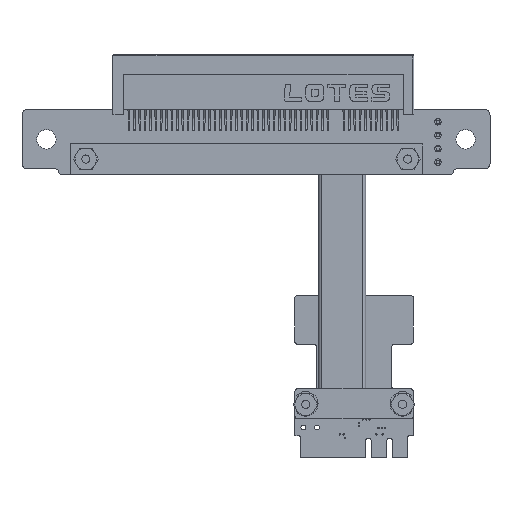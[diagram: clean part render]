
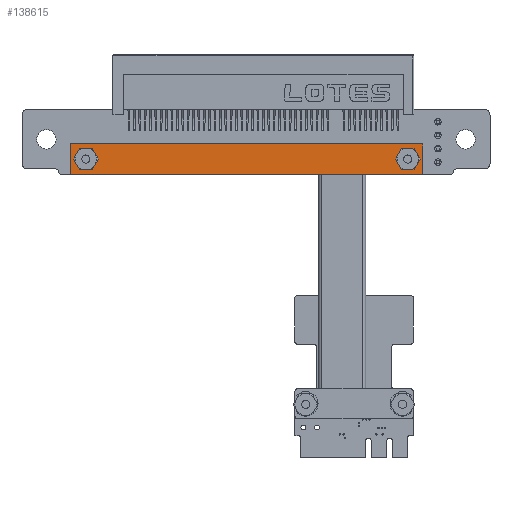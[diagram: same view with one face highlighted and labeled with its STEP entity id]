
A CAD part, top view. The second image highlights one B-rep face of the part: STEP entity #138615.
In plain terms, the highlighted planar face has unit normal (0, 0, 1) as drawn and (0, 1, 0) by its records, which use the part's own axes.
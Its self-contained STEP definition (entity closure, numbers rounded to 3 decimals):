
#138474 = VERTEX_POINT('',#138475);
#138475 = CARTESIAN_POINT('',(0.,3.,-5.6));
#138481 = EDGE_CURVE('',#138482,#138474,#138484,.T.);
#138482 = VERTEX_POINT('',#138483);
#138483 = CARTESIAN_POINT('',(0.,3.,0.));
#138484 = LINE('',#138485,#138486);
#138485 = CARTESIAN_POINT('',(0.,3.,0.));
#138486 = VECTOR('',#138487,1.);
#138487 = DIRECTION('',(0.,0.,-1.));
#138512 = VERTEX_POINT('',#138513);
#138513 = CARTESIAN_POINT('',(-65.5,3.,-5.6));
#138519 = EDGE_CURVE('',#138474,#138512,#138520,.T.);
#138520 = LINE('',#138521,#138522);
#138521 = CARTESIAN_POINT('',(0.,3.,-5.6));
#138522 = VECTOR('',#138523,1.);
#138523 = DIRECTION('',(-1.,0.,0.));
#138543 = VERTEX_POINT('',#138544);
#138544 = CARTESIAN_POINT('',(-65.5,3.,0.));
#138550 = EDGE_CURVE('',#138512,#138543,#138551,.T.);
#138551 = LINE('',#138552,#138553);
#138552 = CARTESIAN_POINT('',(-65.5,3.,0.));
#138553 = VECTOR('',#138554,1.);
#138554 = DIRECTION('',(0.,0.,1.));
#138604 = EDGE_CURVE('',#138543,#138482,#138605,.T.);
#138605 = LINE('',#138606,#138607);
#138606 = CARTESIAN_POINT('',(0.,3.,0.));
#138607 = VECTOR('',#138608,1.);
#138608 = DIRECTION('',(1.,0.,0.));
#138615 = ADVANCED_FACE('',(#138616,#138627,#138638),#138644,.T.);
#138616 = FACE_BOUND('',#138617,.T.);
#138617 = EDGE_LOOP('',(#138618));
#138618 = ORIENTED_EDGE('',*,*,#138619,.F.);
#138619 = EDGE_CURVE('',#138620,#138620,#138622,.T.);
#138620 = VERTEX_POINT('',#138621);
#138621 = CARTESIAN_POINT('',(-2.8,3.,-0.8));
#138622 = CIRCLE('',#138623,2.);
#138623 = AXIS2_PLACEMENT_3D('',#138624,#138625,#138626);
#138624 = CARTESIAN_POINT('',(-2.8,3.,-2.8));
#138625 = DIRECTION('',(0.,1.,0.));
#138626 = DIRECTION('',(0.,0.,1.));
#138627 = FACE_BOUND('',#138628,.T.);
#138628 = EDGE_LOOP('',(#138629));
#138629 = ORIENTED_EDGE('',*,*,#138630,.F.);
#138630 = EDGE_CURVE('',#138631,#138631,#138633,.T.);
#138631 = VERTEX_POINT('',#138632);
#138632 = CARTESIAN_POINT('',(-62.7,3.,-0.8));
#138633 = CIRCLE('',#138634,2.);
#138634 = AXIS2_PLACEMENT_3D('',#138635,#138636,#138637);
#138635 = CARTESIAN_POINT('',(-62.7,3.,-2.8));
#138636 = DIRECTION('',(0.,1.,0.));
#138637 = DIRECTION('',(0.,0.,1.));
#138638 = FACE_BOUND('',#138639,.T.);
#138639 = EDGE_LOOP('',(#138640,#138641,#138642,#138643));
#138640 = ORIENTED_EDGE('',*,*,#138481,.T.);
#138641 = ORIENTED_EDGE('',*,*,#138519,.T.);
#138642 = ORIENTED_EDGE('',*,*,#138550,.T.);
#138643 = ORIENTED_EDGE('',*,*,#138604,.T.);
#138644 = PLANE('',#138645);
#138645 = AXIS2_PLACEMENT_3D('',#138646,#138647,#138648);
#138646 = CARTESIAN_POINT('',(0.,3.,0.));
#138647 = DIRECTION('',(0.,1.,0.));
#138648 = DIRECTION('',(0.,0.,1.));
